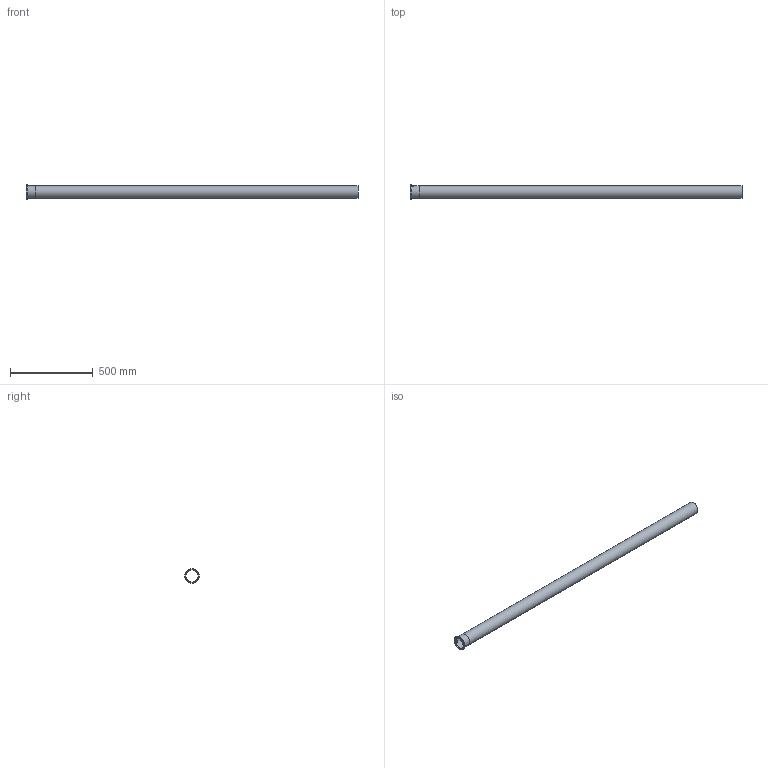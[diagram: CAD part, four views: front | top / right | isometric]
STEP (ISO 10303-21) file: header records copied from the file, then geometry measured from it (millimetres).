
FILE_DESCRIPTION((''),'2;1');
FILE_NAME('I:\WATTS\3D_CAD\3D_CAD_Models\Blucher_Drains\P_StraightPipe\WebsiteFiles\3D\STEP\P3-6.6-316.stp','2009-12-02T14:12:32',('menesek'),(''),'Autodesk Inventor 2010','Autodesk Inventor 2010','');
FILE_SCHEMA(('AUTOMOTIVE_DESIGN { 1 0 10303 214 1 1 1 1 }'));
Length unit declared in the file: inch
Products named in the file (1): P3-6.6-316
Bounding box: 2000 x 87.12 x 87.12 mm (x, y, z)
Volume: 487580.4 mm3; surface area: 932861.7 mm2
Topology: 1 solids, 1 shells, 109 faces, 285 edges, 190 vertices
Faces by surface type: plane 59, bspline 34, cylinder 16
Full cylindrical faces by diameter (mm): 72.898 x1, 74.93 x1, 75.946 x2, 87.122 x1
Entity records: 13765 total; most frequent: CARTESIAN_POINT 11387, ORIENTED_EDGE 548, DIRECTION 356, EDGE_CURVE 274, VERTEX_POINT 186, EDGE_LOOP 128, AXIS2_PLACEMENT_3D 120, VECTOR 116
